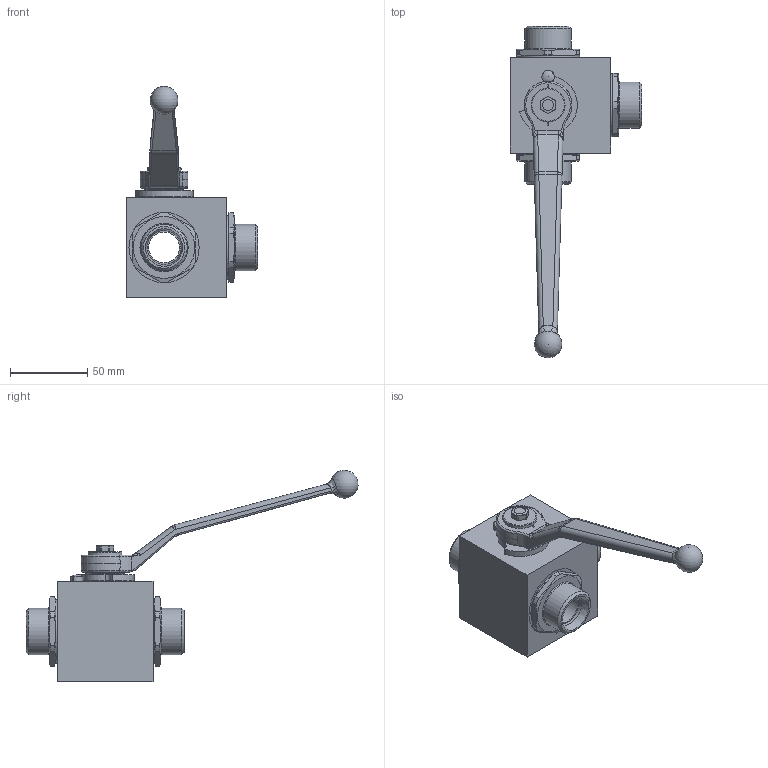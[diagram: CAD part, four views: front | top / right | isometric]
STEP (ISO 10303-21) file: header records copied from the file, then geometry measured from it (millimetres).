
FILE_DESCRIPTION( ( 'Unknown' ), '1' );
FILE_NAME( 'H:/PISTER/3D-MODELLE/BK3-Edelstahl stp/BK3-Edelst DN20 22L.stp', 'Unknown', ( 'Unknown' ), ( 'Unknown' ), 'PSStep 14.0', 'Unknown', ' ' );
FILE_SCHEMA( ( 'AUTOMOTIVE_DESIGN { 1 0 10303 214 1 1 1 1 }' ) );
Length unit declared in the file: millimetre
Products named in the file (12): Assem1; 58-28740-10-oa0; 10-025-001-oa2; 56-032-073-oa3; 09-14-002; 58-0440-007; 06-020-003-oa7; 04-020-040-oa8; 04-020-040-oa9; 03-020-003-oa11; Griff_SW14; 01-020-040-oa12
Assembly tree (11 placements, depth 2):
  Assem1
    58-28740-10-oa0
    10-025-001-oa2
    56-032-073-oa3
    09-14-002
    58-0440-007
    06-020-003-oa7
    04-020-040-oa8
    04-020-040-oa9
    03-020-003-oa11
    Griff_SW14
    01-020-040-oa12
Bounding box: 85.2 x 215.13 x 136.9 mm (x, y, z)
Volume: 229907.1 mm3; surface area: 67190.8 mm2
Topology: 11 solids, 11 shells, 340 faces, 868 edges, 554 vertices
Faces by surface type: plane 115, cylinder 107, cone 45, torus 38, bspline 32, sphere 3
Full cylindrical faces by diameter (mm): 5 x1, 6 x1, 6.6 x1, 7.98 x1, 20 x5, 20.2 x1, 22 x4, 25 x1, 30 x3, 31 x1, 34.3 x1, 36.376 x1, 36.5 x1, 38 x1, 38.3 x1, 40 x1, 41 x3, 45.5 x3
Entity records: 15027 total; most frequent: CARTESIAN_POINT 4680, ORIENTED_EDGE 1518, DIRECTION 1481, EDGE_CURVE 759, AXIS2_PLACEMENT_3D 621, VERTEX_POINT 518, EDGE_LOOP 437, FACE_OUTER_BOUND 382
